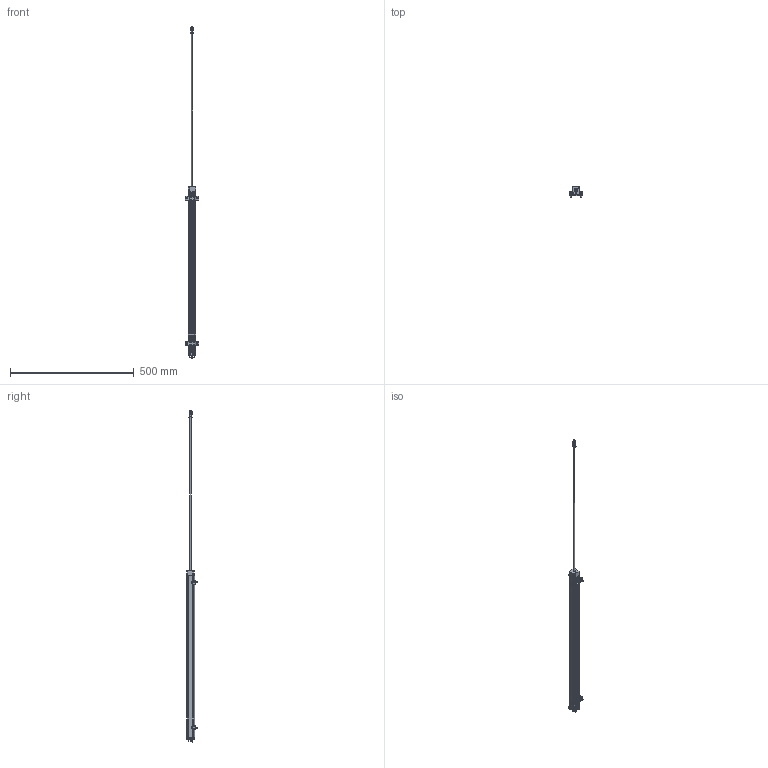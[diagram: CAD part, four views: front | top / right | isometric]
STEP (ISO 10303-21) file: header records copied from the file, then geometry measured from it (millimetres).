
FILE_DESCRIPTION (( 'STEP AP214' ), '1' );
FILE_NAME ('LWH_600.STEP', '2008-11-06T12:23:15', ( 'novotechnik' ), ( 'novotechnik' ), 'SwSTEP 2.0', 'SolidWorks 2008', '' );
FILE_SCHEMA (( 'AUTOMOTIVE_DESIGN' ));
Length unit declared in the file: millimetre
Products named in the file (4): LWH_600; LWH_600_-_Schubstange_Standard; LWH_600_-_Gehaeuse_Standard; LWH_-_Klammer_Standard
Assembly tree (4 placements, depth 2):
  LWH_600
    LWH_600_-_Gehaeuse_Standard
    LWH_-_Klammer_Standard  x2
    LWH_600_-_Schubstange_Standard
Bounding box: 56 x 43.08 x 1341 mm (x, y, z)
Volume: 630976.2 mm3; surface area: 157716.5 mm2
Topology: 35 solids, 35 shells, 1066 faces, 2743 edges, 1770 vertices
Faces by surface type: plane 501, cylinder 392, cone 114, bspline 37, torus 22
Entity records: 39859 total; most frequent: CARTESIAN_POINT 7393, ORIENTED_EDGE 4638, DIRECTION 4515, EDGE_CURVE 2319, AXIS2_PLACEMENT_3D 1590, VERTEX_POINT 1500, VECTOR 1335, LINE 1335
